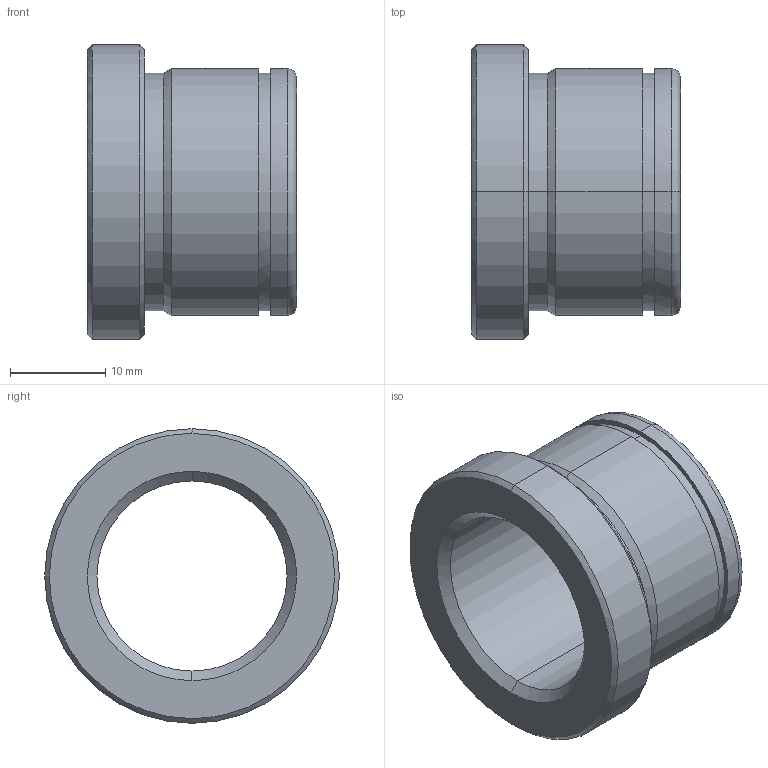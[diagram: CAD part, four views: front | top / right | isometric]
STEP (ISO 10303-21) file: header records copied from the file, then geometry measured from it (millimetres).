
FILE_DESCRIPTION(('CATIA V5 STEP Exchange'),'2;1');
FILE_NAME('C:\Users\Utente\Desktop\IO LAVORO\3D X SITO CF\X SITO\PLASTICA\553\553-20X22.stp','2021-05-23T18:17:37+00:00',('none'),('none'),'CATIA Version 5 Release 20 GA (IN-10)','CATIA V5 STEP AP203','none');
FILE_SCHEMA(('CONFIG_CONTROL_DESIGN'));
Length unit declared in the file: millimetre
Products named in the file (1): 553-20X22
Bounding box: 22 x 31 x 31 mm (x, y, z)
Volume: 5857.2 mm3; surface area: 4105.8 mm2
Topology: 1 solids, 1 shells, 29 faces, 92 edges, 68 vertices
Faces by surface type: cylinder 12, cone 8, plane 5, torus 4
Entity records: 1222 total; most frequent: CARTESIAN_POINT 368, ORIENTED_EDGE 184, DIRECTION 136, EDGE_CURVE 92, AXIS2_PLACEMENT_3D 88, VERTEX_POINT 68, CIRCLE 58, EDGE_LOOP 34
